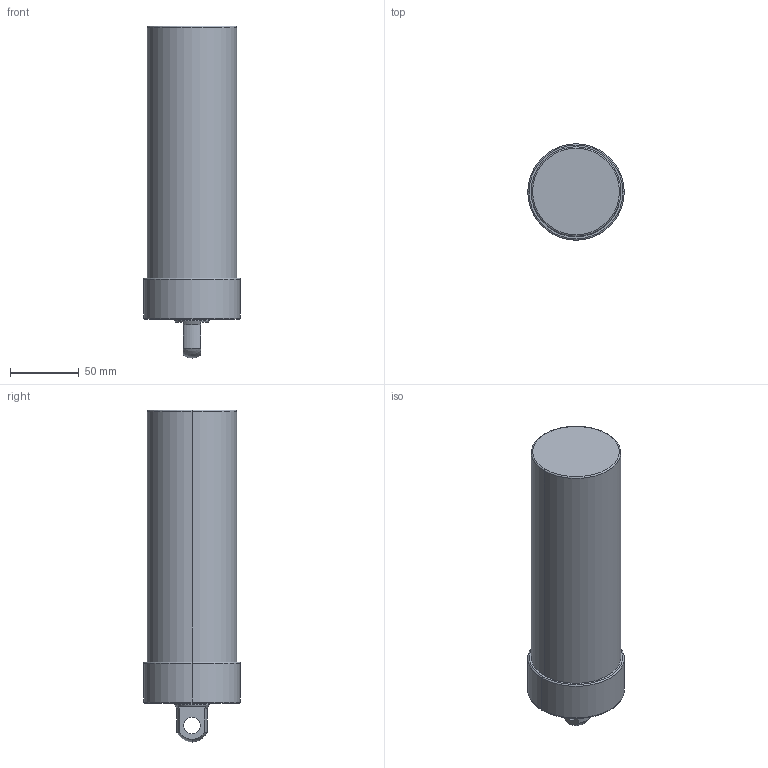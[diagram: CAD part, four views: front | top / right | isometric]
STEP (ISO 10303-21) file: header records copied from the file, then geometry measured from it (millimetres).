
FILE_DESCRIPTION (( 'STEP AP203' ), '1' );
FILE_NAME ('CLLU-065GP-150.STEP', '2020-01-08T00:39:19', ( '' ), ( '' ), 'SwSTEP 2.0', 'SolidWorks 2015', '' );
FILE_SCHEMA (( 'CONFIG_CONTROL_DESIGN' ));
Length unit declared in the file: millimetre
Products named in the file (1): CLLU-065GP-150
Bounding box: 70 x 70 x 241 mm (x, y, z)
Volume: 726789 mm3; surface area: 54325.2 mm2
Topology: 1 solids, 1 shells, 57 faces, 130 edges, 75 vertices
Faces by surface type: cylinder 22, cone 18, plane 9, torus 6, sphere 2
Entity records: 1643 total; most frequent: DIRECTION 308, CARTESIAN_POINT 267, ORIENTED_EDGE 244, AXIS2_PLACEMENT_3D 132, EDGE_CURVE 122, VERTEX_POINT 75, CIRCLE 74, EDGE_LOOP 67
